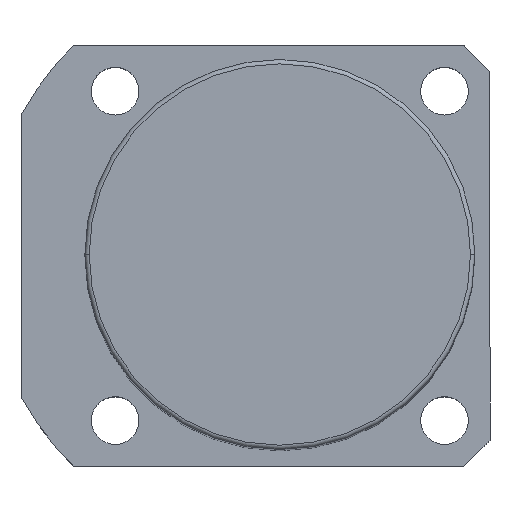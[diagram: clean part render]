
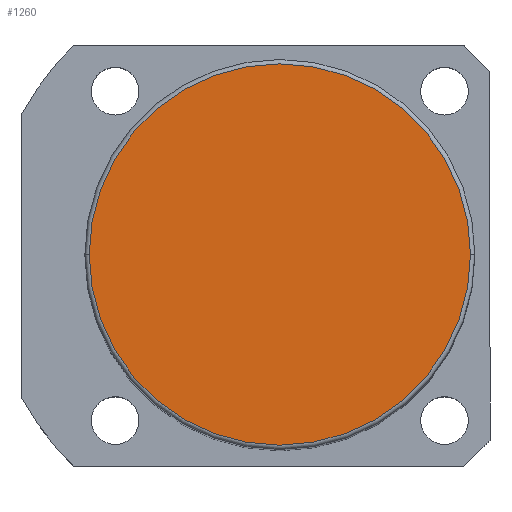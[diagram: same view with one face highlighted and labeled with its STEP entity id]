
A CAD part, top view. The second image highlights one B-rep face of the part: STEP entity #1260.
In plain terms, the highlighted planar face has unit normal (0, 0, 1).
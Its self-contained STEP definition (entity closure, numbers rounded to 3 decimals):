
#3 = EDGE_LOOP ( 'NONE', ( #1776, #200 ) ) ;
#182 = PLANE ( 'NONE',  #1428 ) ;
#200 = ORIENTED_EDGE ( 'NONE', *, *, #876, .T. ) ;
#263 = EDGE_CURVE ( 'NONE', #1655, #1675, #670, .T. ) ;
#321 = CARTESIAN_POINT ( 'NONE',  ( 0., 0., 196.5 ) ) ;
#359 = DIRECTION ( 'NONE',  ( 0., 0., 1. ) ) ;
#388 = DIRECTION ( 'NONE',  ( 0., 0., 1. ) ) ;
#464 = DIRECTION ( 'NONE',  ( 0., 0., 1. ) ) ;
#468 = DIRECTION ( 'NONE',  ( 1., 0., 0. ) ) ;
#520 = DIRECTION ( 'NONE',  ( 1., 0., 0. ) ) ;
#670 = CIRCLE ( 'NONE', #1406, 44. ) ;
#823 = FACE_OUTER_BOUND ( 'NONE', #3, .T. ) ;
#876 = EDGE_CURVE ( 'NONE', #1675, #1655, #1340, .T. ) ;
#1013 = CARTESIAN_POINT ( 'NONE',  ( 44., 0., 196.5 ) ) ;
#1260 = ADVANCED_FACE ( 'NONE', ( #823 ), #182, .T. ) ;
#1340 = CIRCLE ( 'NONE', #1400, 44. ) ;
#1400 = AXIS2_PLACEMENT_3D ( 'NONE', #1634, #388, #520 ) ;
#1406 = AXIS2_PLACEMENT_3D ( 'NONE', #1591, #359, #468 ) ;
#1428 = AXIS2_PLACEMENT_3D ( 'NONE', #321, #464, #1433 ) ;
#1433 = DIRECTION ( 'NONE',  ( 1., 0., 0. ) ) ;
#1591 = CARTESIAN_POINT ( 'NONE',  ( 0., 0., 196.5 ) ) ;
#1634 = CARTESIAN_POINT ( 'NONE',  ( 0., 0., 196.5 ) ) ;
#1655 = VERTEX_POINT ( 'NONE', #1013 ) ;
#1675 = VERTEX_POINT ( 'NONE', #1714 ) ;
#1714 = CARTESIAN_POINT ( 'NONE',  ( -44., 0., 196.5 ) ) ;
#1776 = ORIENTED_EDGE ( 'NONE', *, *, #263, .T. ) ;
